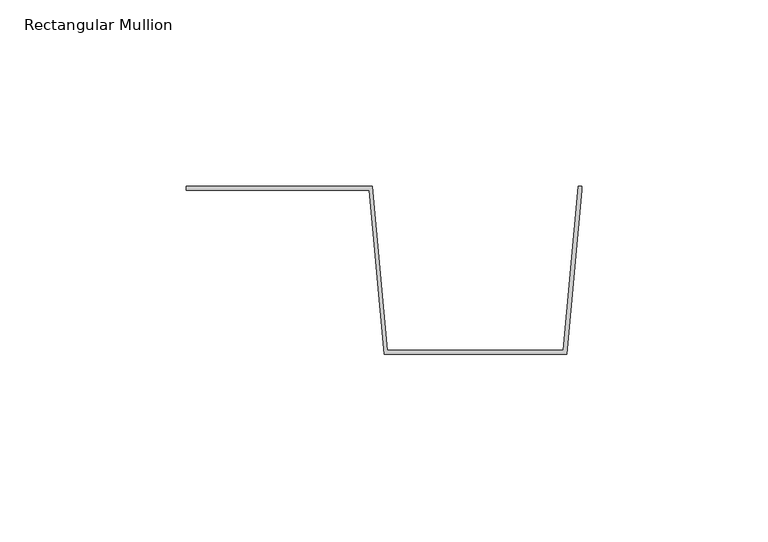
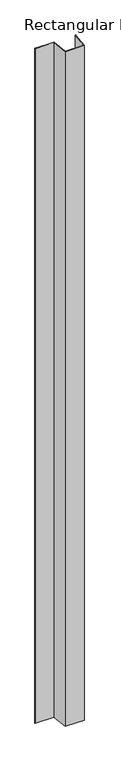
"""IFC4 building model written with IfcOpenShell, lengths in millimetres: member geometry, Rectangular Mullion : CD_NINELINE_Batten Intermediate."""

import ifcopenshell
import ifcopenshell.guid

model = None  # the IFC model being written
_history = None  # IfcOwnerHistory: only IFC2X3 demands one
_inside = {}  # id of a spatial element -> (the spatial element, [elements in it])
_under = {}  # id of a project, library or spatial element -> (it, [spatial elements below it])
_declared = {}  # id of a project -> (the project, [libraries it declares])
_typed = {}  # id of a type object -> (the type object, [elements of that type])
_made_of = {}  # id of a material, layer set ... -> (it, [elements and type objects made of it])


def new_model(schema):
    """Start an empty IFC model of exactly this schema.

    Asked for "IFC4X3", IfcOpenShell would pick the latest addendum, in which some entities
    have other attributes; the version numbers below select the first issue.
    IFC2X3 requires an IfcOwnerHistory on every rooted entity: one is made here for all.
    """
    global model, _history
    if schema == "IFC4X3":
        model = ifcopenshell.file(schema_version=(4, 3, 0, 0))
    else:
        model = ifcopenshell.file(schema=schema)
    _inside.clear()
    _under.clear()
    _declared.clear()
    _typed.clear()
    _made_of.clear()
    _history = None
    if model.schema == "IFC2X3":
        org = make("IfcOrganization", Name="unknown")
        user = make(
            "IfcPersonAndOrganization",
            ThePerson=make("IfcPerson", FamilyName="unknown"),
            TheOrganization=org,
        )
        app = make(
            "IfcApplication",
            ApplicationDeveloper=org,
            Version="unknown",
            ApplicationFullName="unknown",
            ApplicationIdentifier="unknown",
        )
        _history = make(
            "IfcOwnerHistory",
            OwningUser=user,
            OwningApplication=app,
            ChangeAction="ADDED",
            CreationDate=0,
        )
    return model


def make(cls, **values):
    """One entity of the class cls with the attributes given. An attribute that is None is left unset."""
    return model.create_entity(
        cls, **{name: value for name, value in values.items() if value is not None}
    )


def rooted(cls, **values):
    """An entity with a GlobalId (a new one), such as an element, a storey or a relation."""
    return make(cls, GlobalId=ifcopenshell.guid.new(), OwnerHistory=_history, **values)


def si_unit(unit_type, name, prefix=None):
    """IfcSIUnit, for example si_unit("LENGTHUNIT", "METRE", prefix="MILLI")."""
    return make("IfcSIUnit", UnitType=unit_type, Prefix=prefix, Name=name)


def assignment(units):
    """IfcUnitAssignment: the units of a project."""
    return None if units is None else make("IfcUnitAssignment", Units=units)


def point(xyz):
    """IfcCartesianPoint."""
    return None if xyz is None else make("IfcCartesianPoint", Coordinates=xyz)


def direction(xyz):
    """IfcDirection."""
    return None if xyz is None else make("IfcDirection", DirectionRatios=xyz)


def frame(location, z_axis=None, x_axis=None):
    """IfcAxis2Placement3D, a coordinate frame: its origin and axes. An axis left out is left unset."""
    return make(
        "IfcAxis2Placement3D",
        Location=point(location),
        Axis=direction(z_axis),
        RefDirection=direction(x_axis),
    )


def origin():
    """The frame at (0, 0, 0) with its axes left unset."""
    return frame((0.0, 0.0, 0.0))


def place(relative_to, where):
    """IfcLocalPlacement: puts the frame where relative to a parent placement (None: the world)."""
    return make(
        "IfcLocalPlacement", PlacementRelTo=relative_to, RelativePlacement=where
    )


def context(
    kind, dimensions, precision=None, world=None, true_north=None, identifier=None
):
    """IfcGeometricRepresentationContext, for example the 3D "Model" context."""
    return make(
        "IfcGeometricRepresentationContext",
        ContextIdentifier=identifier,
        ContextType=kind,
        CoordinateSpaceDimension=dimensions,
        Precision=precision,
        WorldCoordinateSystem=world,
        TrueNorth=true_north,
    )


def project(units=None, contexts=None):
    """IfcProject with its units and contexts."""
    return rooted(
        "IfcProject",
        Name="project",
        RepresentationContexts=contexts,
        UnitsInContext=assignment(units),
    )


def spatial(cls, under=None, at=None, **own):
    """A site, building, storey or space (cls), placed at a placement, below another one or the project."""
    s = rooted(cls, ObjectPlacement=at, **own)
    if under is not None:
        _under.setdefault(under.id(), (under, []))[1].append(s)
    return s


def polyline(points):
    """IfcPolyline through the points."""
    return make("IfcPolyline", Points=[point(p) for p in points])


def outline(outer, holes=None, kind="AREA"):
    """IfcArbitraryClosedProfileDef: a profile drawn as a closed curve; with holes, ...WithVoids."""
    if holes is None:
        return make("IfcArbitraryClosedProfileDef", ProfileType=kind, OuterCurve=outer)
    return make(
        "IfcArbitraryProfileDefWithVoids",
        ProfileType=kind,
        OuterCurve=outer,
        InnerCurves=holes,
    )


def extrude(swept, where, along, depth):
    """IfcExtrudedAreaSolid: the profile swept, set in the frame where, extruded along a direction by depth."""
    return make(
        "IfcExtrudedAreaSolid",
        SweptArea=swept,
        Position=where,
        ExtrudedDirection=direction(along),
        Depth=depth,
    )


def shape(context_of_items, identifier, shape_type, items):
    """IfcShapeRepresentation: the items that make up one representation, for example the "Body"."""
    return make(
        "IfcShapeRepresentation",
        ContextOfItems=context_of_items,
        RepresentationIdentifier=identifier,
        RepresentationType=shape_type,
        Items=items,
    )


def source(mapping_origin, context_of_items, identifier, shape_type, items):
    """IfcRepresentationMap: a shape defined once, which mapped items show again and again."""
    return make(
        "IfcRepresentationMap",
        MappingOrigin=mapping_origin,
        MappedRepresentation=shape(context_of_items, identifier, shape_type, items),
    )


def transform(
    local_origin,
    x_axis=None,
    y_axis=None,
    z_axis=None,
    scale=None,
    scale2=None,
    scale3=None,
    uniform=True,
):
    """IfcCartesianTransformationOperator3D, or its non-uniform kind. x_axis, y_axis, z_axis: its Axis1, 2, 3."""
    if uniform:
        return make(
            "IfcCartesianTransformationOperator3D",
            Axis1=direction(x_axis),
            Axis2=direction(y_axis),
            LocalOrigin=point(local_origin),
            Scale=scale,
            Axis3=direction(z_axis),
        )
    return make(
        "IfcCartesianTransformationOperator3DnonUniform",
        Axis1=direction(x_axis),
        Axis2=direction(y_axis),
        LocalOrigin=point(local_origin),
        Scale=scale,
        Axis3=direction(z_axis),
        Scale2=scale2,
        Scale3=scale3,
    )


def mapped(mapping_source, mapping_target):
    """IfcMappedItem: shows the shape of a source again, moved by a transform."""
    return make(
        "IfcMappedItem", MappingSource=mapping_source, MappingTarget=mapping_target
    )


def made_of(thing, what):
    """Note that an element or type object is made of a material, layer set ...; save() writes the relation."""
    if what is not None:
        _made_of.setdefault(what.id(), (what, []))[1].append(thing)
    return thing


def element(
    cls,
    number,
    at=None,
    inside=None,
    cuts=None,
    type_object=None,
    material=None,
    context=None,
    identifier="Body",
    shape_type=None,
    held_by="IfcProductDefinitionShape",
    body=None,
    shapes=None,
    **own,
):
    """One element of the class cls, such as IfcWall. Its Tag is "e" and its number.

    at: its placement. inside: the storey or other place that contains it. cuts: it is an
    opening in that element (IfcRelVoidsElement). A single representation is given by context,
    identifier, shape_type and body (its items); several are given by shapes. held_by: the class
    of the entity that holds the representations. save() writes the other relations.
    """
    e = rooted(cls, Tag="e%d" % number, ObjectPlacement=at, **own)
    if body is not None:
        shapes = [shape(context, identifier, shape_type, body)]
    if shapes is not None:
        e.Representation = make(held_by, Representations=shapes)
    if inside is not None:
        _inside.setdefault(inside.id(), (inside, []))[1].append(e)
    if cuts is not None:
        rooted(
            "IfcRelVoidsElement", RelatingBuildingElement=cuts, RelatedOpeningElement=e
        )
    if type_object is not None:
        _typed.setdefault(type_object.id(), (type_object, []))[1].append(e)
    return made_of(e, material)


def aggregate(whole, parts):
    """IfcRelAggregates: a whole, such as a stair, and the parts it consists of."""
    return rooted("IfcRelAggregates", RelatingObject=whole, RelatedObjects=parts)


def save(model, path):
    """Write the relations noted so far, then the file.

    IfcRelAggregates (storeys below a building ...), IfcRelContainedInSpatialStructure (elements
    in a storey), IfcRelDefinesByType, IfcRelAssociatesMaterial and IfcRelDeclares: one each for
    every whole, place, type object, material and project.
    """
    for whole, parts in _under.values():
        aggregate(whole, parts)
    for where, things in _inside.values():
        rooted(
            "IfcRelContainedInSpatialStructure",
            RelatedElements=things,
            RelatingStructure=where,
        )
    for kind, things in _typed.values():
        rooted("IfcRelDefinesByType", RelatedObjects=things, RelatingType=kind)
    for what, things in _made_of.values():
        rooted("IfcRelAssociatesMaterial", RelatedObjects=things, RelatingMaterial=what)
    for by, libraries in _declared.values():
        rooted("IfcRelDeclares", RelatingContext=by, RelatedDefinitions=libraries)
    model.write(path)


def rectangular_mullion_8aa512d7(model_context):
    return source(origin(), model_context, "Body", "SweptSolid", [
        extrude(outline(polyline([(0.0, 0.0), (49.9132146, 0.0), (53.9132146, -44.0), (101.0867854, -44.0), (105.0867854, 0.0), (106.0, 0.0), (106.0, -1.0), (102.0, -45.0), (53.0, -45.0), (49.0, -1.0), (0.0, -1.0), (0.0, 0.0)])), frame((0.0, 0.0, -1855.0), z_axis=(0.0, 0.0, 1.0), x_axis=(1.0, 0.0, 0.0)), (0.0, 0.0, 1.0), 1855.0),
    ])


if __name__ == "__main__":
    model = new_model("IFC4")
    model_context = context("Model", 3, world=origin())
    ifc_project = project(units=[si_unit("LENGTHUNIT", "METRE", prefix="MILLI")], contexts=[model_context])
    site = spatial("IfcSite", under=ifc_project)
    building = spatial("IfcBuilding", under=site)
    placement = place(None, origin())
    rectangular_mullion_shape = rectangular_mullion_8aa512d7(model_context)
    element("IfcMember", 1, ObjectType="Rectangular Mullion : CD_NINELINE_Batten Intermediate", at=placement, inside=building, context=model_context, shape_type="MappedRepresentation", body=[
        mapped(rectangular_mullion_shape, transform((0.0, 0.0, 0.0), x_axis=(1.0, 0.0, 0.0), y_axis=(0.0, 1.0, 0.0), z_axis=(0.0, 0.0, 1.0))),
    ])
    save(model, "model.ifc")
